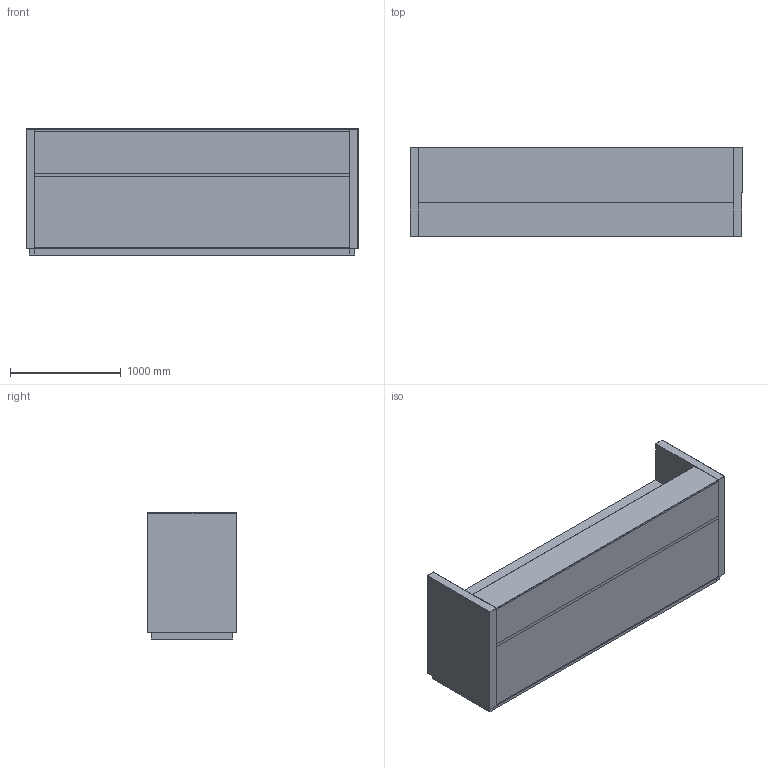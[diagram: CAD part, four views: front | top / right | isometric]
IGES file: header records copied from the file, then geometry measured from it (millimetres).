
Start section: Comment
Global section: file name: Linear - 300 x 80 - Eckig.igs; native system:  By UGS Corp.; preprocessor: XPlus GENERIC/IGES 3.0; author: Author; organization: Title; date: 20181120.104319; units: inch
Bounding box: 3000 x 800 x 1140.01 mm (x, y, z)
Surface area: 19372064 mm2 (no closed solid volume)
Topology: 0 solids, 0 shells, 62 faces, 304 edges, 304 vertices
Faces by surface type: bspline 62
